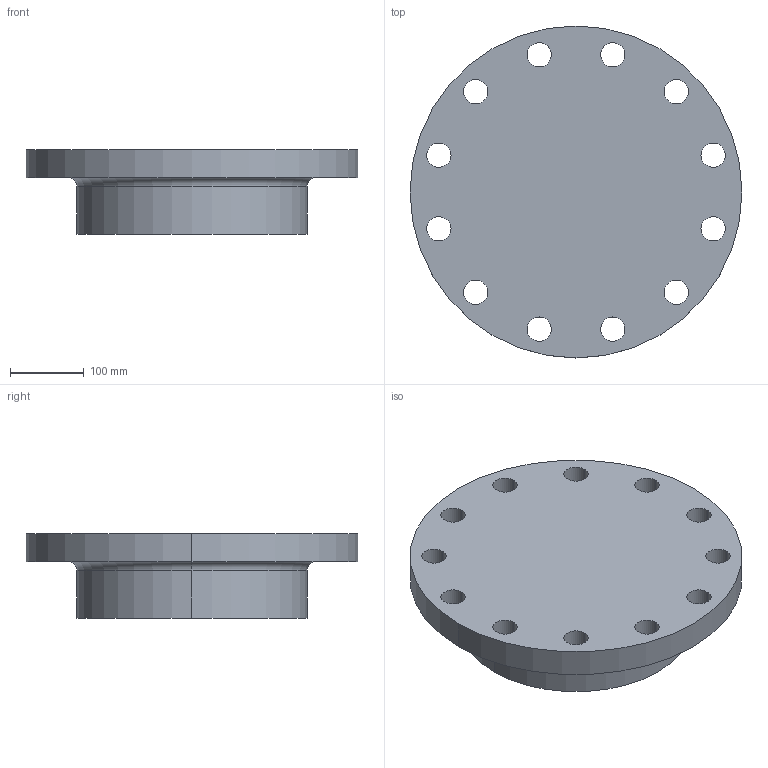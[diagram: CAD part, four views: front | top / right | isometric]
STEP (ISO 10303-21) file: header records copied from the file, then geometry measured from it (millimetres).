
FILE_DESCRIPTION (( 'STEP AP214' ), '1' );
FILE_NAME ('PN40 DN250 Type 21(i) - Type A Face.STEP', '2019-01-05T15:56:41', ( '' ), ( '' ), 'SwSTEP 2.0', 'SolidWorks 2019', '' );
FILE_SCHEMA (( 'AUTOMOTIVE_DESIGN' ));
Length unit declared in the file: millimetre
Products named in the file (1): PN40 DN250 Type 21(i) - Type A Face
Bounding box: 450 x 450 x 115 mm (x, y, z)
Volume: 11571375.7 mm3; surface area: 469044.3 mm2
Topology: 1 solids, 1 shells, 33 faces, 88 edges, 58 vertices
Faces by surface type: cylinder 28, plane 3, torus 2
Entity records: 1148 total; most frequent: DIRECTION 216, CARTESIAN_POINT 180, ORIENTED_EDGE 176, AXIS2_PLACEMENT_3D 94, EDGE_CURVE 88, CIRCLE 60, VERTEX_POINT 58, EDGE_LOOP 58
